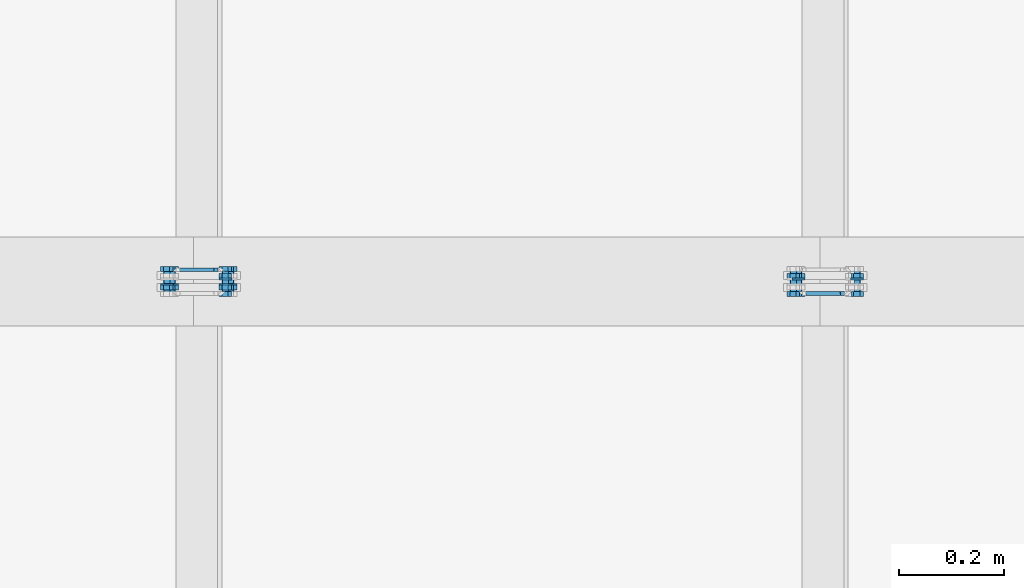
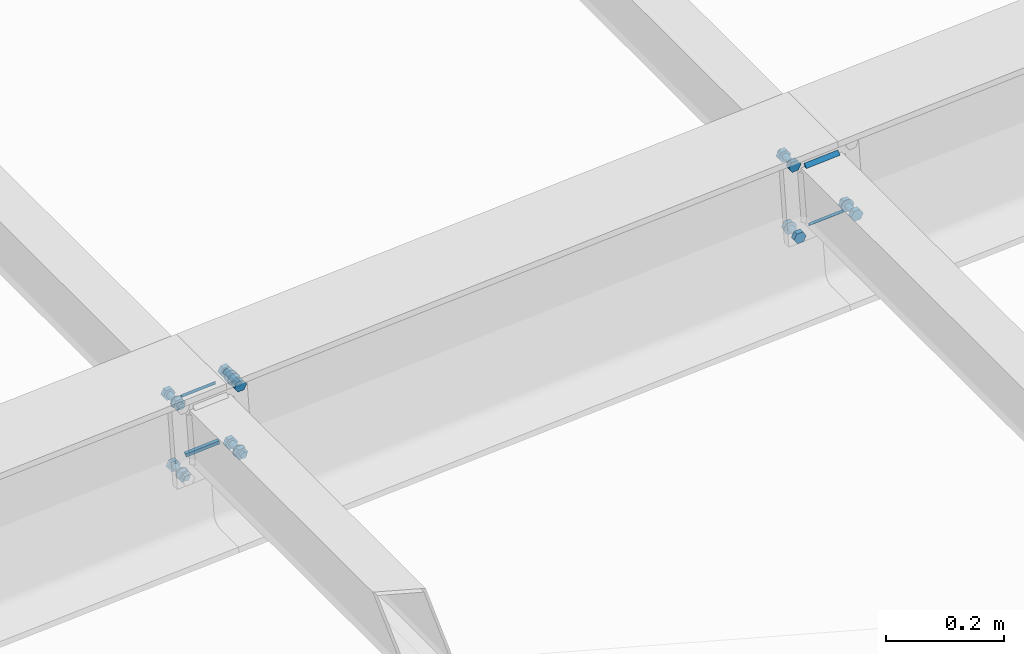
# One storey, part 50 of 72: 31 mechanical fasteners, 8 fasteners.
"""IFC4 building model written with IfcOpenShell, lengths in metres."""

from ifc_helpers import new_model, si_unit, frame, origin_with_axes, place, context, project, spatial, polyline, outline, extrude, type_object, element, save


model = new_model("IFC4")

# Units and contexts
model_context = context("Model", 3, precision=1e-05, world=origin_with_axes())
ifc_project = project(units=[si_unit("LENGTHUNIT", "METRE"), si_unit("AREAUNIT", "SQUARE_METRE"), si_unit("VOLUMEUNIT", "CUBIC_METRE"), si_unit("MASSUNIT", "GRAM", prefix="KILO"), si_unit("TIMEUNIT", "SECOND"), si_unit("PLANEANGLEUNIT", "RADIAN"), si_unit("SOLIDANGLEUNIT", "STERADIAN"), si_unit("THERMODYNAMICTEMPERATUREUNIT", "DEGREE_CELSIUS")], contexts=[model_context])

# Site, building, storey
placement_1 = place(None, origin_with_axes())
site = spatial("IfcSite", under=ifc_project, at=placement_1, Name="Italia", CompositionType="ELEMENT")
building = spatial("IfcBuilding", under=site, at=placement_1, Name="Pensilina", CompositionType="ELEMENT")
storey = spatial("IfcBuildingStorey", under=building, at=placement_1, Name="Storey 0", CompositionType="ELEMENT", Elevation=0.0)

# Mechanical fasteners
mechanical_fastener_type_1 = type_object("IfcMechanicalFastenerType", Name="Collegamento 0403_0402", PredefinedType="BOLT")
placement_2 = place(placement_1, origin_with_axes())
mechanical_fastener_1_placement = place(placement_2, origin_with_axes())
element("IfcMechanicalFastener", 1, at=mechanical_fastener_1_placement, inside=storey, type_object=mechanical_fastener_type_1, Name="Collegamento 0403_0402", NominalDiameter=0.0119998, context=model_context, shape_type="SweptSolid", body=[
    extrude(outline(polyline([(0.0, 0.0, 0.0), (-0.0119727, -0.000808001, 0.0), (-0.0186586, 0.00915694, 0.0), (-0.0133719, 0.0199294, 0.0), (-0.00139904, 0.0207374, 0.0), (0.00528693, 0.0107725, 0.0), (0.0, 0.0, 0.0)])), frame((3.47284, 10.541, 3.93071), z_axis=(0.0, -1.0, 0.0), x_axis=(1.0, 0.0, 0.0)), (0.0, 0.0, 1.0), 0.00959969),
])
mechanical_fastener_type_2 = type_object("IfcMechanicalFastenerType", Name="Collegamento 0403_0402", PredefinedType="BOLT")
mechanical_fastener_2_placement = place(placement_2, origin_with_axes())
element("IfcMechanicalFastener", 2, at=mechanical_fastener_2_placement, inside=storey, type_object=mechanical_fastener_type_2, Name="Collegamento 0403_0402", NominalDiameter=0.012, context=model_context, shape_type="SweptSolid", body=[
    extrude(outline(polyline([(0.0, 0.0, 0.0), (-0.000204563, -0.00155282, 0.0), (-0.000803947, -0.00300002, 0.0), (-0.00175738, -0.00424266, 0.0), (-0.00300002, -0.00519609, 0.0), (-0.00444722, -0.00579548, 0.0), (-0.00600004, -0.00600004, 0.0), (-0.00755286, -0.00579548, 0.0), (-0.00900006, -0.00519609, 0.0), (-0.0102427, -0.00424266, 0.0), (-0.0111961, -0.00300002, 0.0), (-0.0117955, -0.00155282, 0.0), (-0.0120001, 0.0, 0.0), (-0.0117955, 0.00155282, 0.0), (-0.0111961, 0.00300002, 0.0), (-0.0102427, 0.00424266, 0.0), (-0.00900006, 0.00519609, 0.0), (-0.00755286, 0.00579548, 0.0), (-0.00600004, 0.00600004, 0.0), (-0.00444722, 0.00579548, 0.0), (-0.00300002, 0.00519609, 0.0), (-0.00175738, 0.00424266, 0.0), (-0.000803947, 0.00300002, 0.0), (-0.000204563, 0.00155282, 0.0), (0.0, 0.0, 0.0)])), frame((3.47216, 10.582, 3.94067), z_axis=(0.0, -1.0, 0.0), x_axis=(1.0, 0.0, 0.0)), (0.0, 0.0, 1.0), 0.0410004),
])
mechanical_fastener_type_3 = type_object("IfcMechanicalFastenerType", Name="Collegamento 0403_0402", PredefinedType="BOLT")
mechanical_fastener_3_placement = place(placement_2, origin_with_axes())
element("IfcMechanicalFastener", 3, at=mechanical_fastener_3_placement, inside=storey, type_object=mechanical_fastener_type_3, Name="Collegamento 0403_0402", NominalDiameter=0.0119998, context=model_context, shape_type="SweptSolid", body=[
    extrude(outline(polyline([(0.0, 0.0, 0.0), (-0.0119727, -0.000808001, 0.0), (-0.0186586, 0.00915694, 0.0), (-0.0133719, 0.0199294, 0.0), (-0.00139904, 0.0207374, 0.0), (0.00528693, 0.0107725, 0.0), (0.0, 0.0, 0.0)])), frame((3.47284, 10.5756, 3.93071), z_axis=(0.0, -1.0, 0.0), x_axis=(1.0, 0.0, 0.0)), (0.0, 0.0, 1.0), 0.00959969),
])
mechanical_fastener_type_4 = type_object("IfcMechanicalFastenerType", Name="Collegamento 0403_0402", PredefinedType="BOLT")
mechanical_fastener_4_placement = place(placement_2, origin_with_axes())
element("IfcMechanicalFastener", 4, at=mechanical_fastener_4_placement, inside=storey, type_object=mechanical_fastener_type_4, Name="Collegamento 0403_0402", NominalDiameter=0.024, context=model_context, shape_type="SweptSolid", body=[
    extrude(outline(polyline([(0.0, 0.0, 0.0), (-0.000408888, -0.00310588, 0.0), (-0.00160789, -0.00600004, 0.0), (-0.00351477, -0.00848532, 0.0), (-0.00600004, -0.0103922, 0.0), (-0.00889421, -0.0115912, 0.0), (-0.0120001, -0.0120001, 0.0), (-0.015106, -0.0115912, 0.0), (-0.0180001, -0.0103922, 0.0), (-0.0204854, -0.00848532, 0.0), (-0.0223923, -0.00600004, 0.0), (-0.0235913, -0.00310588, 0.0), (-0.0240002, 0.0, 0.0), (-0.0235913, 0.00310588, 0.0), (-0.0223923, 0.00600004, 0.0), (-0.0204854, 0.00848532, 0.0), (-0.0180001, 0.0103922, 0.0), (-0.015106, 0.0115912, 0.0), (-0.0120001, 0.0120001, 0.0), (-0.00889421, 0.0115912, 0.0), (-0.00600004, 0.0103922, 0.0), (-0.00351477, 0.00848532, 0.0), (-0.00160789, 0.00600004, 0.0), (-0.000408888, 0.00310588, 0.0), (0.0, 0.0, 0.0)])), frame((3.47816, 10.566, 3.94067), z_axis=(0.0, -1.0, 0.0), x_axis=(1.0, 0.0, 0.0)), (0.0, 0.0, 1.0), 0.00199986),
])

# Fasteners
fastener_type_1 = type_object("IfcFastenerType", Name="Collegamento 0403_0404", PredefinedType="WELD")
fastener_1_placement = place(placement_2, origin_with_axes())
element("IfcFastener", 5, at=fastener_1_placement, inside=storey, type_object=fastener_type_1, Name="Collegamento 0403_0404", context=model_context, shape_type="SweptSolid", body=[
    extrude(outline(polyline([(0.0, 0.0, 0.0), (0.00717354, -0.00695801, 0.0), (0.0, -0.00695801, 0.0), (0.0, 0.0, 0.0)])), frame((3.37792, 10.5789, 3.92561), z_axis=(0.997731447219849, 0.0, 0.067320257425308), x_axis=(0.0, 1.0, 0.0)), (0.0, 0.0, 1.0), 0.0660996),
])
fastener_type_2 = type_object("IfcFastenerType", Name="Collegamento 0403_0404", PredefinedType="WELD")
fastener_2_placement = place(placement_2, origin_with_axes())
element("IfcFastener", 6, at=fastener_2_placement, inside=storey, type_object=fastener_type_2, Name="Collegamento 0403_0404", context=model_context, shape_type="SweptSolid", body=[
    extrude(outline(polyline([(0.0, 0.0, 0.0), (-0.00717354, 0.00695825, 0.0), (0.0, 0.00695825, 0.0), (0.0, 0.0, 0.0)])), frame((3.45288, 10.5789, 3.79654), z_axis=(-0.997731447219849, 0.0, -0.067320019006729), x_axis=(0.0, -1.0, 0.0)), (0.0, 0.0, 1.0), 0.0660999),
])
fastener_type_3 = type_object("IfcFastenerType", Name="Collegamento 0403_0404", PredefinedType="WELD")
fastener_3_placement = place(placement_2, origin_with_axes())
element("IfcFastener", 7, at=fastener_3_placement, inside=storey, type_object=fastener_type_3, Name="Collegamento 0403_0404", context=model_context, shape_type="SweptSolid", body=[
    extrude(outline(polyline([(0.0, 0.0, 0.0), (0.00717354, -0.00695801, 0.0), (0.0, -0.00695801, 0.0), (0.0, 0.0, 0.0)])), frame((3.37792, 10.5789, 3.92561), z_axis=(0.997731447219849, 0.0, 0.067320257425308), x_axis=(0.0, 1.0, 0.0)), (0.0, 0.0, 1.0), 0.0660996),
])
fastener_type_4 = type_object("IfcFastenerType", Name="Collegamento 0403_0404", PredefinedType="WELD")
fastener_4_placement = place(placement_2, origin_with_axes())
element("IfcFastener", 8, at=fastener_4_placement, inside=storey, type_object=fastener_type_4, Name="Collegamento 0403_0404", context=model_context, shape_type="SweptSolid", body=[
    extrude(outline(polyline([(0.0, 0.0, 0.0), (-0.00717354, 0.00695825, 0.0), (0.0, 0.00695825, 0.0), (0.0, 0.0, 0.0)])), frame((3.45288, 10.5789, 3.79654), z_axis=(-0.997731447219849, 0.0, -0.067320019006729), x_axis=(0.0, -1.0, 0.0)), (0.0, 0.0, 1.0), 0.0660999),
])

# Mechanical fasteners
mechanical_fastener_type_5 = type_object("IfcMechanicalFastenerType", Name="Collegamento 0403_0404", PredefinedType="BOLT")
mechanical_fastener_5_placement = place(placement_2, origin_with_axes())
element("IfcMechanicalFastener", 9, at=mechanical_fastener_5_placement, inside=storey, type_object=mechanical_fastener_type_5, Name="Collegamento 0403_0404", NominalDiameter=0.0119998, context=model_context, shape_type="SweptSolid", body=[
    extrude(outline(polyline([(0.0, 0.0, 0.0), (-0.0119727, 0.000807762, 0.0), (-0.0172596, 0.0115805, 0.0), (-0.0105736, 0.0215454, 0.0), (0.00139928, 0.0207374, 0.0), (0.00668597, 0.00996494, 0.0), (0.0, 0.0, 0.0)])), frame((3.4711, 10.579, 3.77825), z_axis=(0.0, 1.0, 0.0), x_axis=(-1.0, 0.0, 0.0)), (0.0, 0.0, 1.0), 0.00959969),
])
mechanical_fastener_type_6 = type_object("IfcMechanicalFastenerType", Name="Collegamento 0403_0404", PredefinedType="BOLT")
mechanical_fastener_6_placement = place(placement_2, origin_with_axes())
element("IfcMechanicalFastener", 10, at=mechanical_fastener_6_placement, inside=storey, type_object=mechanical_fastener_type_6, Name="Collegamento 0403_0404", NominalDiameter=0.012, context=model_context, shape_type="SweptSolid", body=[
    extrude(outline(polyline([(0.0, 0.0, 0.0), (-0.000204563, -0.00155282, 0.0), (-0.000803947, -0.00300002, 0.0), (-0.00175738, -0.00424266, 0.0), (-0.00300002, -0.00519609, 0.0), (-0.00444722, -0.00579548, 0.0), (-0.00600004, -0.00600004, 0.0), (-0.00755286, -0.00579548, 0.0), (-0.00900006, -0.00519609, 0.0), (-0.0102427, -0.00424266, 0.0), (-0.0111961, -0.00300002, 0.0), (-0.0117955, -0.00155282, 0.0), (-0.0120001, 0.0, 0.0), (-0.0117955, 0.00155282, 0.0), (-0.0111961, 0.00300002, 0.0), (-0.0102427, 0.00424266, 0.0), (-0.00900006, 0.00519609, 0.0), (-0.00755286, 0.00579548, 0.0), (-0.00600004, 0.00600004, 0.0), (-0.00444722, 0.00579548, 0.0), (-0.00300002, 0.00519609, 0.0), (-0.00175738, 0.00424266, 0.0), (-0.000803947, 0.00300002, 0.0), (-0.000204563, 0.00155282, 0.0), (0.0, 0.0, 0.0)])), frame((3.47039, 10.538, 3.78902), z_axis=(0.0, 1.0, 0.0), x_axis=(-1.0, 0.0, 0.0)), (0.0, 0.0, 1.0), 0.0410004),
])
mechanical_fastener_type_7 = type_object("IfcMechanicalFastenerType", Name="Collegamento 0403_0404", PredefinedType="BOLT")
mechanical_fastener_7_placement = place(placement_2, origin_with_axes())
element("IfcMechanicalFastener", 11, at=mechanical_fastener_7_placement, inside=storey, type_object=mechanical_fastener_type_7, Name="Collegamento 0403_0404", NominalDiameter=0.0119998, context=model_context, shape_type="SweptSolid", body=[
    extrude(outline(polyline([(0.0, 0.0, 0.0), (-0.0119727, 0.000807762, 0.0), (-0.0172596, 0.0115805, 0.0), (-0.0105736, 0.0215454, 0.0), (0.00139928, 0.0207374, 0.0), (0.00668597, 0.00996494, 0.0), (0.0, 0.0, 0.0)])), frame((3.4711, 10.5444, 3.77825), z_axis=(0.0, 1.0, 0.0), x_axis=(-1.0, 0.0, 0.0)), (0.0, 0.0, 1.0), 0.00959969),
])
mechanical_fastener_type_8 = type_object("IfcMechanicalFastenerType", Name="Collegamento 0403_0404", PredefinedType="BOLT")
mechanical_fastener_8_placement = place(placement_2, origin_with_axes())
element("IfcMechanicalFastener", 12, at=mechanical_fastener_8_placement, inside=storey, type_object=mechanical_fastener_type_8, Name="Collegamento 0403_0404", NominalDiameter=0.024, context=model_context, shape_type="SweptSolid", body=[
    extrude(outline(polyline([(0.0, 0.0, 0.0), (-0.000408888, -0.00310588, 0.0), (-0.00160789, -0.00600004, 0.0), (-0.00351477, -0.00848532, 0.0), (-0.00600004, -0.0103922, 0.0), (-0.00889421, -0.0115912, 0.0), (-0.0120001, -0.0120001, 0.0), (-0.015106, -0.0115912, 0.0), (-0.0180001, -0.0103922, 0.0), (-0.0204854, -0.00848532, 0.0), (-0.0223923, -0.00600004, 0.0), (-0.0235913, -0.00310588, 0.0), (-0.0240002, 0.0, 0.0), (-0.0235913, 0.00310588, 0.0), (-0.0223923, 0.00600004, 0.0), (-0.0204854, 0.00848532, 0.0), (-0.0180001, 0.0103922, 0.0), (-0.015106, 0.0115912, 0.0), (-0.0120001, 0.0120001, 0.0), (-0.00889421, 0.0115912, 0.0), (-0.00600004, 0.0103922, 0.0), (-0.00351477, 0.00848532, 0.0), (-0.00160789, 0.00600004, 0.0), (-0.000408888, 0.00310588, 0.0), (0.0, 0.0, 0.0)])), frame((3.46439, 10.554, 3.78902), z_axis=(0.0, 1.0, 0.0), x_axis=(-1.0, 0.0, 0.0)), (0.0, 0.0, 1.0), 0.00199986),
])
mechanical_fastener_type_9 = type_object("IfcMechanicalFastenerType", Name="Collegamento 0403_0404", PredefinedType="BOLT")
mechanical_fastener_9_placement = place(placement_2, origin_with_axes())
element("IfcMechanicalFastener", 13, at=mechanical_fastener_9_placement, inside=storey, type_object=mechanical_fastener_type_9, Name="Collegamento 0403_0404", NominalDiameter=0.0119998, context=model_context, shape_type="SweptSolid", body=[
    extrude(outline(polyline([(0.0, 0.0, 0.0), (-0.0119729, 0.000808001, 0.0), (-0.0172596, 0.0115805, 0.0), (-0.0105736, 0.0215454, 0.0), (0.00139904, 0.0207376, 0.0), (0.00668597, 0.00996494, 0.0), (0.0, 0.0, 0.0)])), frame((3.35936, 10.579, 3.77071), z_axis=(0.0, 1.0, 0.0), x_axis=(-1.0, 0.0, 0.0)), (0.0, 0.0, 1.0), 0.00959969),
])
mechanical_fastener_type_10 = type_object("IfcMechanicalFastenerType", Name="Collegamento 0403_0404", PredefinedType="BOLT")
mechanical_fastener_10_placement = place(placement_2, origin_with_axes())
element("IfcMechanicalFastener", 14, at=mechanical_fastener_10_placement, inside=storey, type_object=mechanical_fastener_type_10, Name="Collegamento 0403_0404", NominalDiameter=0.012, context=model_context, shape_type="SweptSolid", body=[
    extrude(outline(polyline([(0.0, 0.0, 0.0), (-0.000204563, -0.00155282, 0.0), (-0.000803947, -0.00300002, 0.0), (-0.00175738, -0.00424266, 0.0), (-0.00300002, -0.00519609, 0.0), (-0.00444722, -0.00579548, 0.0), (-0.00600004, -0.00600004, 0.0), (-0.00755286, -0.00579548, 0.0), (-0.00900006, -0.00519609, 0.0), (-0.0102427, -0.00424266, 0.0), (-0.0111961, -0.00300002, 0.0), (-0.0117955, -0.00155282, 0.0), (-0.0120001, 0.0, 0.0), (-0.0117955, 0.00155282, 0.0), (-0.0111961, 0.00300002, 0.0), (-0.0102427, 0.00424266, 0.0), (-0.00900006, 0.00519609, 0.0), (-0.00755286, 0.00579548, 0.0), (-0.00600004, 0.00600004, 0.0), (-0.00444722, 0.00579548, 0.0), (-0.00300002, 0.00519609, 0.0), (-0.00175738, 0.00424266, 0.0), (-0.000803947, 0.00300002, 0.0), (-0.000204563, 0.00155282, 0.0), (0.0, 0.0, 0.0)])), frame((3.35864, 10.538, 3.78148), z_axis=(0.0, 1.0, 0.0), x_axis=(-1.0, 0.0, 0.0)), (0.0, 0.0, 1.0), 0.0410004),
])
mechanical_fastener_type_11 = type_object("IfcMechanicalFastenerType", Name="Collegamento 0403_0404", PredefinedType="BOLT")
mechanical_fastener_11_placement = place(placement_2, origin_with_axes())
element("IfcMechanicalFastener", 15, at=mechanical_fastener_11_placement, inside=storey, type_object=mechanical_fastener_type_11, Name="Collegamento 0403_0404", NominalDiameter=0.0119998, context=model_context, shape_type="SweptSolid", body=[
    extrude(outline(polyline([(0.0, 0.0, 0.0), (-0.0119729, 0.000808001, 0.0), (-0.0172596, 0.0115805, 0.0), (-0.0105736, 0.0215454, 0.0), (0.00139904, 0.0207376, 0.0), (0.00668597, 0.00996494, 0.0), (0.0, 0.0, 0.0)])), frame((3.35936, 10.5444, 3.77071), z_axis=(0.0, 1.0, 0.0), x_axis=(-1.0, 0.0, 0.0)), (0.0, 0.0, 1.0), 0.00959969),
])
mechanical_fastener_type_12 = type_object("IfcMechanicalFastenerType", Name="Collegamento 0403_0404", PredefinedType="BOLT")
mechanical_fastener_12_placement = place(placement_2, origin_with_axes())
element("IfcMechanicalFastener", 16, at=mechanical_fastener_12_placement, inside=storey, type_object=mechanical_fastener_type_12, Name="Collegamento 0403_0404", NominalDiameter=0.024, context=model_context, shape_type="SweptSolid", body=[
    extrude(outline(polyline([(0.0, 0.0, 0.0), (-0.000408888, -0.00310588, 0.0), (-0.00160789, -0.00600004, 0.0), (-0.00351477, -0.00848532, 0.0), (-0.00600004, -0.0103922, 0.0), (-0.00889421, -0.0115912, 0.0), (-0.0120001, -0.0120001, 0.0), (-0.015106, -0.0115912, 0.0), (-0.0180001, -0.0103922, 0.0), (-0.0204854, -0.00848532, 0.0), (-0.0223923, -0.00600004, 0.0), (-0.0235913, -0.00310588, 0.0), (-0.0240002, 0.0, 0.0), (-0.0235913, 0.00310588, 0.0), (-0.0223923, 0.00600004, 0.0), (-0.0204854, 0.00848532, 0.0), (-0.0180001, 0.0103922, 0.0), (-0.015106, 0.0115912, 0.0), (-0.0120001, 0.0120001, 0.0), (-0.00889421, 0.0115912, 0.0), (-0.00600004, 0.0103922, 0.0), (-0.00351477, 0.00848532, 0.0), (-0.00160789, 0.00600004, 0.0), (-0.000408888, 0.00310588, 0.0), (0.0, 0.0, 0.0)])), frame((3.35264, 10.554, 3.78148), z_axis=(0.0, 1.0, 0.0), x_axis=(-1.0, 0.0, 0.0)), (0.0, 0.0, 1.0), 0.00199986),
])
mechanical_fastener_type_13 = type_object("IfcMechanicalFastenerType", Name="Collegamento 0403_0404", PredefinedType="BOLT")
mechanical_fastener_13_placement = place(placement_2, origin_with_axes())
element("IfcMechanicalFastener", 17, at=mechanical_fastener_13_placement, inside=storey, type_object=mechanical_fastener_type_13, Name="Collegamento 0403_0404", NominalDiameter=0.0119998, context=model_context, shape_type="SweptSolid", body=[
    extrude(outline(polyline([(0.0, 0.0, 0.0), (-0.0119727, 0.000808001, 0.0), (-0.0172596, 0.0115805, 0.0), (-0.0105736, 0.0215454, 0.0), (0.00139928, 0.0207374, 0.0), (0.00668597, 0.00996494, 0.0), (0.0, 0.0, 0.0)])), frame((3.46087, 10.579, 3.9299), z_axis=(0.0, 1.0, 0.0), x_axis=(-1.0, 0.0, 0.0)), (0.0, 0.0, 1.0), 0.00959969),
])
mechanical_fastener_type_14 = type_object("IfcMechanicalFastenerType", Name="Collegamento 0403_0404", PredefinedType="BOLT")
mechanical_fastener_14_placement = place(placement_2, origin_with_axes())
element("IfcMechanicalFastener", 18, at=mechanical_fastener_14_placement, inside=storey, type_object=mechanical_fastener_type_14, Name="Collegamento 0403_0404", NominalDiameter=0.012, context=model_context, shape_type="SweptSolid", body=[
    extrude(outline(polyline([(0.0, 0.0, 0.0), (-0.000204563, -0.00155282, 0.0), (-0.000803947, -0.00300002, 0.0), (-0.00175738, -0.00424266, 0.0), (-0.00300002, -0.00519609, 0.0), (-0.00444722, -0.00579548, 0.0), (-0.00600004, -0.00600004, 0.0), (-0.00755286, -0.00579548, 0.0), (-0.00900006, -0.00519609, 0.0), (-0.0102427, -0.00424266, 0.0), (-0.0111961, -0.00300002, 0.0), (-0.0117955, -0.00155282, 0.0), (-0.0120001, 0.0, 0.0), (-0.0117955, 0.00155282, 0.0), (-0.0111961, 0.00300002, 0.0), (-0.0102427, 0.00424266, 0.0), (-0.00900006, 0.00519609, 0.0), (-0.00755286, 0.00579548, 0.0), (-0.00600004, 0.00600004, 0.0), (-0.00444722, 0.00579548, 0.0), (-0.00300002, 0.00519609, 0.0), (-0.00175738, 0.00424266, 0.0), (-0.000803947, 0.00300002, 0.0), (-0.000204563, 0.00155282, 0.0), (0.0, 0.0, 0.0)])), frame((3.46016, 10.538, 3.94067), z_axis=(0.0, 1.0, 0.0), x_axis=(-1.0, 0.0, 0.0)), (0.0, 0.0, 1.0), 0.0410004),
])
mechanical_fastener_type_15 = type_object("IfcMechanicalFastenerType", Name="Collegamento 0403_0404", PredefinedType="BOLT")
mechanical_fastener_15_placement = place(placement_2, origin_with_axes())
element("IfcMechanicalFastener", 19, at=mechanical_fastener_15_placement, inside=storey, type_object=mechanical_fastener_type_15, Name="Collegamento 0403_0404", NominalDiameter=0.0119998, context=model_context, shape_type="SweptSolid", body=[
    extrude(outline(polyline([(0.0, 0.0, 0.0), (-0.0119727, 0.000808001, 0.0), (-0.0172596, 0.0115805, 0.0), (-0.0105736, 0.0215454, 0.0), (0.00139928, 0.0207374, 0.0), (0.00668597, 0.00996494, 0.0), (0.0, 0.0, 0.0)])), frame((3.46087, 10.5444, 3.9299), z_axis=(0.0, 1.0, 0.0), x_axis=(-1.0, 0.0, 0.0)), (0.0, 0.0, 1.0), 0.00959969),
])
mechanical_fastener_type_16 = type_object("IfcMechanicalFastenerType", Name="Collegamento 0403_0404", PredefinedType="BOLT")
mechanical_fastener_16_placement = place(placement_2, origin_with_axes())
element("IfcMechanicalFastener", 20, at=mechanical_fastener_16_placement, inside=storey, type_object=mechanical_fastener_type_16, Name="Collegamento 0403_0404", NominalDiameter=0.024, context=model_context, shape_type="SweptSolid", body=[
    extrude(outline(polyline([(0.0, 0.0, 0.0), (-0.000408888, -0.00310588, 0.0), (-0.00160789, -0.00600004, 0.0), (-0.00351477, -0.00848532, 0.0), (-0.00600004, -0.0103922, 0.0), (-0.00889421, -0.0115912, 0.0), (-0.0120001, -0.0120001, 0.0), (-0.015106, -0.0115912, 0.0), (-0.0180001, -0.0103922, 0.0), (-0.0204854, -0.00848532, 0.0), (-0.0223923, -0.00600004, 0.0), (-0.0235913, -0.00310588, 0.0), (-0.0240002, 0.0, 0.0), (-0.0235913, 0.00310588, 0.0), (-0.0223923, 0.00600004, 0.0), (-0.0204854, 0.00848532, 0.0), (-0.0180001, 0.0103922, 0.0), (-0.015106, 0.0115912, 0.0), (-0.0120001, 0.0120001, 0.0), (-0.00889421, 0.0115912, 0.0), (-0.00600004, 0.0103922, 0.0), (-0.00351477, 0.00848532, 0.0), (-0.00160789, 0.00600004, 0.0), (-0.000408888, 0.00310588, 0.0), (0.0, 0.0, 0.0)])), frame((3.45416, 10.554, 3.94067), z_axis=(0.0, 1.0, 0.0), x_axis=(-1.0, 0.0, 0.0)), (0.0, 0.0, 1.0), 0.00199986),
])
mechanical_fastener_type_17 = type_object("IfcMechanicalFastenerType", Name="Collegamento 0403_0404", PredefinedType="BOLT")
mechanical_fastener_17_placement = place(placement_2, origin_with_axes())
element("IfcMechanicalFastener", 21, at=mechanical_fastener_17_placement, inside=storey, type_object=mechanical_fastener_type_17, Name="Collegamento 0403_0404", NominalDiameter=0.0119998, context=model_context, shape_type="SweptSolid", body=[
    extrude(outline(polyline([(0.0, 0.0, 0.0), (-0.0119729, 0.000808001, 0.0), (-0.0172596, 0.0115805, 0.0), (-0.0105736, 0.0215454, 0.0), (0.00139904, 0.0207376, 0.0), (0.00668597, 0.00996494, 0.0), (0.0, 0.0, 0.0)])), frame((3.34912, 10.579, 3.92236), z_axis=(0.0, 1.0, 0.0), x_axis=(-1.0, 0.0, 0.0)), (0.0, 0.0, 1.0), 0.00959969),
])
mechanical_fastener_type_18 = type_object("IfcMechanicalFastenerType", Name="Collegamento 0403_0404", PredefinedType="BOLT")
mechanical_fastener_18_placement = place(placement_2, origin_with_axes())
element("IfcMechanicalFastener", 22, at=mechanical_fastener_18_placement, inside=storey, type_object=mechanical_fastener_type_18, Name="Collegamento 0403_0404", NominalDiameter=0.012, context=model_context, shape_type="SweptSolid", body=[
    extrude(outline(polyline([(0.0, 0.0, 0.0), (-0.000204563, -0.00155282, 0.0), (-0.000803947, -0.00300002, 0.0), (-0.00175738, -0.00424266, 0.0), (-0.00300002, -0.00519609, 0.0), (-0.00444722, -0.00579548, 0.0), (-0.00600004, -0.00600004, 0.0), (-0.00755286, -0.00579548, 0.0), (-0.00900006, -0.00519609, 0.0), (-0.0102427, -0.00424266, 0.0), (-0.0111961, -0.00300002, 0.0), (-0.0117955, -0.00155282, 0.0), (-0.0120001, 0.0, 0.0), (-0.0117955, 0.00155282, 0.0), (-0.0111961, 0.00300002, 0.0), (-0.0102427, 0.00424266, 0.0), (-0.00900006, 0.00519609, 0.0), (-0.00755286, 0.00579548, 0.0), (-0.00600004, 0.00600004, 0.0), (-0.00444722, 0.00579548, 0.0), (-0.00300002, 0.00519609, 0.0), (-0.00175738, 0.00424266, 0.0), (-0.000803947, 0.00300002, 0.0), (-0.000204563, 0.00155282, 0.0), (0.0, 0.0, 0.0)])), frame((3.34841, 10.538, 3.93313), z_axis=(0.0, 1.0, 0.0), x_axis=(-1.0, 0.0, 0.0)), (0.0, 0.0, 1.0), 0.0410004),
])
mechanical_fastener_type_19 = type_object("IfcMechanicalFastenerType", Name="Collegamento 0403_0404", PredefinedType="BOLT")
mechanical_fastener_19_placement = place(placement_2, origin_with_axes())
element("IfcMechanicalFastener", 23, at=mechanical_fastener_19_placement, inside=storey, type_object=mechanical_fastener_type_19, Name="Collegamento 0403_0404", NominalDiameter=0.0119998, context=model_context, shape_type="SweptSolid", body=[
    extrude(outline(polyline([(0.0, 0.0, 0.0), (-0.0119729, 0.000808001, 0.0), (-0.0172596, 0.0115805, 0.0), (-0.0105736, 0.0215454, 0.0), (0.00139904, 0.0207376, 0.0), (0.00668597, 0.00996494, 0.0), (0.0, 0.0, 0.0)])), frame((3.34912, 10.5444, 3.92236), z_axis=(0.0, 1.0, 0.0), x_axis=(-1.0, 0.0, 0.0)), (0.0, 0.0, 1.0), 0.00959969),
])
mechanical_fastener_type_20 = type_object("IfcMechanicalFastenerType", Name="Collegamento 0403_0404", PredefinedType="BOLT")
mechanical_fastener_20_placement = place(placement_2, origin_with_axes())
element("IfcMechanicalFastener", 24, at=mechanical_fastener_20_placement, inside=storey, type_object=mechanical_fastener_type_20, Name="Collegamento 0403_0404", NominalDiameter=0.024, context=model_context, shape_type="SweptSolid", body=[
    extrude(outline(polyline([(0.0, 0.0, 0.0), (-0.000408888, -0.00310588, 0.0), (-0.00160789, -0.00600004, 0.0), (-0.00351477, -0.00848532, 0.0), (-0.00600004, -0.0103922, 0.0), (-0.00889421, -0.0115912, 0.0), (-0.0120001, -0.0120001, 0.0), (-0.015106, -0.0115912, 0.0), (-0.0180001, -0.0103922, 0.0), (-0.0204854, -0.00848532, 0.0), (-0.0223923, -0.00600004, 0.0), (-0.0235913, -0.00310588, 0.0), (-0.0240002, 0.0, 0.0), (-0.0235913, 0.00310588, 0.0), (-0.0223923, 0.00600004, 0.0), (-0.0204854, 0.00848532, 0.0), (-0.0180001, 0.0103922, 0.0), (-0.015106, 0.0115912, 0.0), (-0.0120001, 0.0120001, 0.0), (-0.00889421, 0.0115912, 0.0), (-0.00600004, 0.0103922, 0.0), (-0.00351477, 0.00848532, 0.0), (-0.00160789, 0.00600004, 0.0), (-0.000408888, 0.00310588, 0.0), (0.0, 0.0, 0.0)])), frame((3.34241, 10.554, 3.93313), z_axis=(0.0, 1.0, 0.0), x_axis=(-1.0, 0.0, 0.0)), (0.0, 0.0, 1.0), 0.00199986),
])

# Fasteners
fastener_type_5 = type_object("IfcFastenerType", Name="Collegamento 0503_0502", PredefinedType="WELD")
fastener_5_placement = place(placement_2, origin_with_axes())
element("IfcFastener", 25, at=fastener_5_placement, inside=storey, type_object=fastener_type_5, Name="Collegamento 0503_0502", context=model_context, shape_type="SweptSolid", body=[
    extrude(outline(polyline([(0.0, 0.0, 0.0), (0.00717354, -0.00695872, 0.0), (0.0, -0.00695872, 0.0), (0.0, 0.0, 0.0)])), frame((4.64108, 10.5411, 4.01231), z_axis=(-0.997731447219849, 0.0, -0.06731953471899), x_axis=(0.0, -1.0, 0.0)), (0.0, 0.0, 1.0), 0.0661003),
])
fastener_type_6 = type_object("IfcFastenerType", Name="Collegamento 0503_0502", PredefinedType="WELD")
fastener_6_placement = place(placement_2, origin_with_axes())
element("IfcFastener", 26, at=fastener_6_placement, inside=storey, type_object=fastener_type_6, Name="Collegamento 0503_0502", context=model_context, shape_type="SweptSolid", body=[
    extrude(outline(polyline([(0.0, 0.0, 0.0), (-0.00717354, 0.00695825, 0.0), (0.0, 0.00695825, 0.0), (0.0, 0.0, 0.0)])), frame((4.58414, 10.5411, 3.87435), z_axis=(0.99773120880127, 0.0, 0.067323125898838), x_axis=(0.0, 1.0, 0.0)), (0.0, 0.0, 1.0), 0.0661004),
])
fastener_type_7 = type_object("IfcFastenerType", Name="Collegamento 0503_0502", PredefinedType="WELD")
fastener_7_placement = place(placement_2, origin_with_axes())
element("IfcFastener", 27, at=fastener_7_placement, inside=storey, type_object=fastener_type_7, Name="Collegamento 0503_0502", context=model_context, shape_type="SweptSolid", body=[
    extrude(outline(polyline([(0.0, 0.0, 0.0), (0.00717354, -0.00695872, 0.0), (0.0, -0.00695872, 0.0), (0.0, 0.0, 0.0)])), frame((4.64108, 10.5411, 4.01231), z_axis=(-0.997731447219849, 0.0, -0.06731953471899), x_axis=(0.0, -1.0, 0.0)), (0.0, 0.0, 1.0), 0.0661003),
])
fastener_type_8 = type_object("IfcFastenerType", Name="Collegamento 0503_0502", PredefinedType="WELD")
fastener_8_placement = place(placement_2, origin_with_axes())
element("IfcFastener", 28, at=fastener_8_placement, inside=storey, type_object=fastener_type_8, Name="Collegamento 0503_0502", context=model_context, shape_type="SweptSolid", body=[
    extrude(outline(polyline([(0.0, 0.0, 0.0), (-0.00717354, 0.00695825, 0.0), (0.0, 0.00695825, 0.0), (0.0, 0.0, 0.0)])), frame((4.58414, 10.5411, 3.87435), z_axis=(0.99773120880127, 0.0, 0.067323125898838), x_axis=(0.0, 1.0, 0.0)), (0.0, 0.0, 1.0), 0.0661004),
])

# Mechanical fasteners
mechanical_fastener_type_21 = type_object("IfcMechanicalFastenerType", Name="Collegamento 0503_0502", PredefinedType="BOLT")
mechanical_fastener_21_placement = place(placement_2, origin_with_axes())
element("IfcMechanicalFastener", 29, at=mechanical_fastener_21_placement, inside=storey, type_object=mechanical_fastener_type_21, Name="Collegamento 0503_0502", NominalDiameter=0.0119998, context=model_context, shape_type="SweptSolid", body=[
    extrude(outline(polyline([(0.0, 0.0, 0.0), (-0.0119729, -0.000808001, 0.0), (-0.0186586, 0.00915694, 0.0), (-0.0133719, 0.0199296, 0.0), (-0.00139904, 0.0207374, 0.0), (0.00528669, 0.0107725, 0.0), (0.0, 0.0, 0.0)])), frame((4.56854, 10.541, 3.85377), z_axis=(0.0, -1.0, 0.0), x_axis=(1.0, 0.0, 0.0)), (0.0, 0.0, 1.0), 0.00959969),
])
mechanical_fastener_type_22 = type_object("IfcMechanicalFastenerType", Name="Collegamento 0503_0502", PredefinedType="BOLT")
mechanical_fastener_22_placement = place(placement_2, origin_with_axes())
element("IfcMechanicalFastener", 30, at=mechanical_fastener_22_placement, inside=storey, type_object=mechanical_fastener_type_22, Name="Collegamento 0503_0502", NominalDiameter=0.012, context=model_context, shape_type="SweptSolid", body=[
    extrude(outline(polyline([(0.0, 0.0, 0.0), (-0.000204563, -0.00155282, 0.0), (-0.000803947, -0.00300002, 0.0), (-0.00175762, -0.00424266, 0.0), (-0.00300026, -0.00519609, 0.0), (-0.00444698, -0.00579548, 0.0), (-0.00600004, -0.00600004, 0.0), (-0.0075531, -0.00579548, 0.0), (-0.00899982, -0.00519609, 0.0), (-0.0102425, -0.00424266, 0.0), (-0.0111961, -0.00300002, 0.0), (-0.0117955, -0.00155282, 0.0), (-0.0120001, 0.0, 0.0), (-0.0117955, 0.00155282, 0.0), (-0.0111961, 0.00300002, 0.0), (-0.0102425, 0.00424266, 0.0), (-0.00899982, 0.00519609, 0.0), (-0.0075531, 0.00579548, 0.0), (-0.00600004, 0.00600004, 0.0), (-0.00444698, 0.00579548, 0.0), (-0.00300026, 0.00519609, 0.0), (-0.00175762, 0.00424266, 0.0), (-0.000803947, 0.00300002, 0.0), (-0.000204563, 0.00155282, 0.0), (0.0, 0.0, 0.0)])), frame((4.56785, 10.582, 3.86373), z_axis=(0.0, -1.0, 0.0), x_axis=(1.0, 0.0, 0.0)), (0.0, 0.0, 1.0), 0.0410004),
])
mechanical_fastener_type_23 = type_object("IfcMechanicalFastenerType", Name="Collegamento 0503_0502", PredefinedType="BOLT")
mechanical_fastener_23_placement = place(placement_2, origin_with_axes())
element("IfcMechanicalFastener", 31, at=mechanical_fastener_23_placement, inside=storey, type_object=mechanical_fastener_type_23, Name="Collegamento 0503_0502", NominalDiameter=0.0119998, context=model_context, shape_type="SweptSolid", body=[
    extrude(outline(polyline([(0.0, 0.0, 0.0), (-0.0119729, -0.000808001, 0.0), (-0.0186586, 0.00915694, 0.0), (-0.0133719, 0.0199296, 0.0), (-0.00139904, 0.0207374, 0.0), (0.00528669, 0.0107725, 0.0), (0.0, 0.0, 0.0)])), frame((4.56854, 10.5756, 3.85377), z_axis=(0.0, -1.0, 0.0), x_axis=(1.0, 0.0, 0.0)), (0.0, 0.0, 1.0), 0.00959969),
])
mechanical_fastener_type_24 = type_object("IfcMechanicalFastenerType", Name="Collegamento 0503_0502", PredefinedType="BOLT")
mechanical_fastener_24_placement = place(placement_2, origin_with_axes())
element("IfcMechanicalFastener", 32, at=mechanical_fastener_24_placement, inside=storey, type_object=mechanical_fastener_type_24, Name="Collegamento 0503_0502", NominalDiameter=0.024, context=model_context, shape_type="SweptSolid", body=[
    extrude(outline(polyline([(0.0, 0.0, 0.0), (-0.000409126, -0.00310588, 0.0), (-0.00160789, -0.00600004, 0.0), (-0.00351477, -0.00848532, 0.0), (-0.00600004, -0.0103922, 0.0), (-0.00889444, -0.0115912, 0.0), (-0.0120001, -0.0120001, 0.0), (-0.0151057, -0.0115912, 0.0), (-0.0180001, -0.0103922, 0.0), (-0.0204854, -0.00848532, 0.0), (-0.0223923, -0.00600004, 0.0), (-0.023591, -0.00310588, 0.0), (-0.0240002, 0.0, 0.0), (-0.023591, 0.00310588, 0.0), (-0.0223923, 0.00600004, 0.0), (-0.0204854, 0.00848532, 0.0), (-0.0180001, 0.0103922, 0.0), (-0.0151057, 0.0115912, 0.0), (-0.0120001, 0.0120001, 0.0), (-0.00889444, 0.0115912, 0.0), (-0.00600004, 0.0103922, 0.0), (-0.00351477, 0.00848532, 0.0), (-0.00160789, 0.00600004, 0.0), (-0.000409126, 0.00310588, 0.0), (0.0, 0.0, 0.0)])), frame((4.57385, 10.566, 3.86373), z_axis=(0.0, -1.0, 0.0), x_axis=(1.0, 0.0, 0.0)), (0.0, 0.0, 1.0), 0.00199986),
])
mechanical_fastener_type_25 = type_object("IfcMechanicalFastenerType", Name="Collegamento 0503_0502", PredefinedType="BOLT")
mechanical_fastener_25_placement = place(placement_2, origin_with_axes())
element("IfcMechanicalFastener", 33, at=mechanical_fastener_25_placement, inside=storey, type_object=mechanical_fastener_type_25, Name="Collegamento 0503_0502", NominalDiameter=0.0119998, context=model_context, shape_type="SweptSolid", body=[
    extrude(outline(polyline([(0.0, 0.0, 0.0), (-0.0119729, -0.000807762, 0.0), (-0.0186586, 0.00915718, 0.0), (-0.0133719, 0.0199296, 0.0), (-0.00139904, 0.0207376, 0.0), (0.00528669, 0.0107727, 0.0), (0.0, 0.0, 0.0)])), frame((4.68028, 10.541, 3.8613), z_axis=(0.0, -1.0, 0.0), x_axis=(1.0, 0.0, 0.0)), (0.0, 0.0, 1.0), 0.00959969),
])
mechanical_fastener_type_26 = type_object("IfcMechanicalFastenerType", Name="Collegamento 0503_0502", PredefinedType="BOLT")
mechanical_fastener_26_placement = place(placement_2, origin_with_axes())
element("IfcMechanicalFastener", 34, at=mechanical_fastener_26_placement, inside=storey, type_object=mechanical_fastener_type_26, Name="Collegamento 0503_0502", NominalDiameter=0.012, context=model_context, shape_type="SweptSolid", body=[
    extrude(outline(polyline([(0.0, 0.0, 0.0), (-0.000204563, -0.00155282, 0.0), (-0.000803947, -0.00300002, 0.0), (-0.00175762, -0.00424266, 0.0), (-0.00300026, -0.00519609, 0.0), (-0.00444698, -0.00579548, 0.0), (-0.00600004, -0.00600004, 0.0), (-0.0075531, -0.00579548, 0.0), (-0.00899982, -0.00519609, 0.0), (-0.0102425, -0.00424266, 0.0), (-0.0111961, -0.00300002, 0.0), (-0.0117955, -0.00155282, 0.0), (-0.0120001, 0.0, 0.0), (-0.0117955, 0.00155282, 0.0), (-0.0111961, 0.00300002, 0.0), (-0.0102425, 0.00424266, 0.0), (-0.00899982, 0.00519609, 0.0), (-0.0075531, 0.00579548, 0.0), (-0.00600004, 0.00600004, 0.0), (-0.00444698, 0.00579548, 0.0), (-0.00300026, 0.00519609, 0.0), (-0.00175762, 0.00424266, 0.0), (-0.000803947, 0.00300002, 0.0), (-0.000204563, 0.00155282, 0.0), (0.0, 0.0, 0.0)])), frame((4.6796, 10.582, 3.87127), z_axis=(0.0, -1.0, 0.0), x_axis=(1.0, 0.0, 0.0)), (0.0, 0.0, 1.0), 0.0410004),
])
mechanical_fastener_type_27 = type_object("IfcMechanicalFastenerType", Name="Collegamento 0503_0502", PredefinedType="BOLT")
mechanical_fastener_27_placement = place(placement_2, origin_with_axes())
element("IfcMechanicalFastener", 35, at=mechanical_fastener_27_placement, inside=storey, type_object=mechanical_fastener_type_27, Name="Collegamento 0503_0502", NominalDiameter=0.0119998, context=model_context, shape_type="SweptSolid", body=[
    extrude(outline(polyline([(0.0, 0.0, 0.0), (-0.0119729, -0.000807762, 0.0), (-0.0186586, 0.00915718, 0.0), (-0.0133719, 0.0199296, 0.0), (-0.00139904, 0.0207376, 0.0), (0.00528669, 0.0107727, 0.0), (0.0, 0.0, 0.0)])), frame((4.68028, 10.5756, 3.8613), z_axis=(0.0, -1.0, 0.0), x_axis=(1.0, 0.0, 0.0)), (0.0, 0.0, 1.0), 0.00959969),
])
mechanical_fastener_type_28 = type_object("IfcMechanicalFastenerType", Name="Collegamento 0503_0502", PredefinedType="BOLT")
mechanical_fastener_28_placement = place(placement_2, origin_with_axes())
element("IfcMechanicalFastener", 36, at=mechanical_fastener_28_placement, inside=storey, type_object=mechanical_fastener_type_28, Name="Collegamento 0503_0502", NominalDiameter=0.024, context=model_context, shape_type="SweptSolid", body=[
    extrude(outline(polyline([(0.0, 0.0, 0.0), (-0.000409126, -0.00310588, 0.0), (-0.00160789, -0.00600004, 0.0), (-0.00351477, -0.00848532, 0.0), (-0.00600004, -0.0103922, 0.0), (-0.00889444, -0.0115912, 0.0), (-0.0120001, -0.0120001, 0.0), (-0.0151057, -0.0115912, 0.0), (-0.0180001, -0.0103922, 0.0), (-0.0204854, -0.00848532, 0.0), (-0.0223923, -0.00600004, 0.0), (-0.023591, -0.00310588, 0.0), (-0.0240002, 0.0, 0.0), (-0.023591, 0.00310588, 0.0), (-0.0223923, 0.00600004, 0.0), (-0.0204854, 0.00848532, 0.0), (-0.0180001, 0.0103922, 0.0), (-0.0151057, 0.0115912, 0.0), (-0.0120001, 0.0120001, 0.0), (-0.00889444, 0.0115912, 0.0), (-0.00600004, 0.0103922, 0.0), (-0.00351477, 0.00848532, 0.0), (-0.00160789, 0.00600004, 0.0), (-0.000409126, 0.00310588, 0.0), (0.0, 0.0, 0.0)])), frame((4.6856, 10.566, 3.87127), z_axis=(0.0, -1.0, 0.0), x_axis=(1.0, 0.0, 0.0)), (0.0, 0.0, 1.0), 0.00199986),
])
mechanical_fastener_type_29 = type_object("IfcMechanicalFastenerType", Name="Collegamento 0503_0502", PredefinedType="BOLT")
mechanical_fastener_29_placement = place(placement_2, origin_with_axes())
element("IfcMechanicalFastener", 37, at=mechanical_fastener_29_placement, inside=storey, type_object=mechanical_fastener_type_29, Name="Collegamento 0503_0502", NominalDiameter=0.012, context=model_context, shape_type="SweptSolid", body=[
    extrude(outline(polyline([(0.0, 0.0, 0.0), (-0.0119729, -0.000807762, 0.0), (-0.0186586, 0.00915718, 0.0), (-0.0133719, 0.0199299, 0.0), (-0.00139904, 0.0207376, 0.0), (0.00528669, 0.0107727, 0.0), (0.0, 0.0, 0.0)])), frame((4.5583, 10.541, 4.00542), z_axis=(0.0, -1.0, 0.0), x_axis=(1.0, 0.0, 0.0)), (0.0, 0.0, 1.0), 0.00959969),
])
mechanical_fastener_type_30 = type_object("IfcMechanicalFastenerType", Name="Collegamento 0503_0502", PredefinedType="BOLT")
mechanical_fastener_30_placement = place(placement_2, origin_with_axes())
element("IfcMechanicalFastener", 38, at=mechanical_fastener_30_placement, inside=storey, type_object=mechanical_fastener_type_30, Name="Collegamento 0503_0502", NominalDiameter=0.012, context=model_context, shape_type="SweptSolid", body=[
    extrude(outline(polyline([(0.0, 0.0, 0.0), (-0.000204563, -0.00155306, 0.0), (-0.000803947, -0.00299978, 0.0), (-0.00175762, -0.00424242, 0.0), (-0.00300026, -0.00519609, 0.0), (-0.00444698, -0.00579548, 0.0), (-0.00600004, -0.00600004, 0.0), (-0.0075531, -0.00579548, 0.0), (-0.00899982, -0.00519609, 0.0), (-0.0102425, -0.00424242, 0.0), (-0.0111961, -0.00299978, 0.0), (-0.0117955, -0.00155306, 0.0), (-0.0120001, 0.0, 0.0), (-0.0117955, 0.00155306, 0.0), (-0.0111961, 0.00299978, 0.0), (-0.0102425, 0.00424242, 0.0), (-0.00899982, 0.00519609, 0.0), (-0.0075531, 0.00579548, 0.0), (-0.00600004, 0.00600004, 0.0), (-0.00444698, 0.00579548, 0.0), (-0.00300026, 0.00519609, 0.0), (-0.00175762, 0.00424242, 0.0), (-0.000803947, 0.00299978, 0.0), (-0.000204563, 0.00155306, 0.0), (0.0, 0.0, 0.0)])), frame((4.55762, 10.582, 4.01539), z_axis=(0.0, -1.0, 0.0), x_axis=(1.0, 0.0, 0.0)), (0.0, 0.0, 1.0), 0.0410004),
])
mechanical_fastener_type_31 = type_object("IfcMechanicalFastenerType", Name="Collegamento 0503_0502", PredefinedType="BOLT")
mechanical_fastener_31_placement = place(placement_2, origin_with_axes())
element("IfcMechanicalFastener", 39, at=mechanical_fastener_31_placement, inside=storey, type_object=mechanical_fastener_type_31, Name="Collegamento 0503_0502", NominalDiameter=0.012, context=model_context, shape_type="SweptSolid", body=[
    extrude(outline(polyline([(0.0, 0.0, 0.0), (-0.0119729, -0.000807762, 0.0), (-0.0186586, 0.00915718, 0.0), (-0.0133719, 0.0199299, 0.0), (-0.00139904, 0.0207376, 0.0), (0.00528669, 0.0107727, 0.0), (0.0, 0.0, 0.0)])), frame((4.5583, 10.5756, 4.00542), z_axis=(0.0, -1.0, 0.0), x_axis=(1.0, 0.0, 0.0)), (0.0, 0.0, 1.0), 0.00959969),
])

save(model, "model.ifc")
